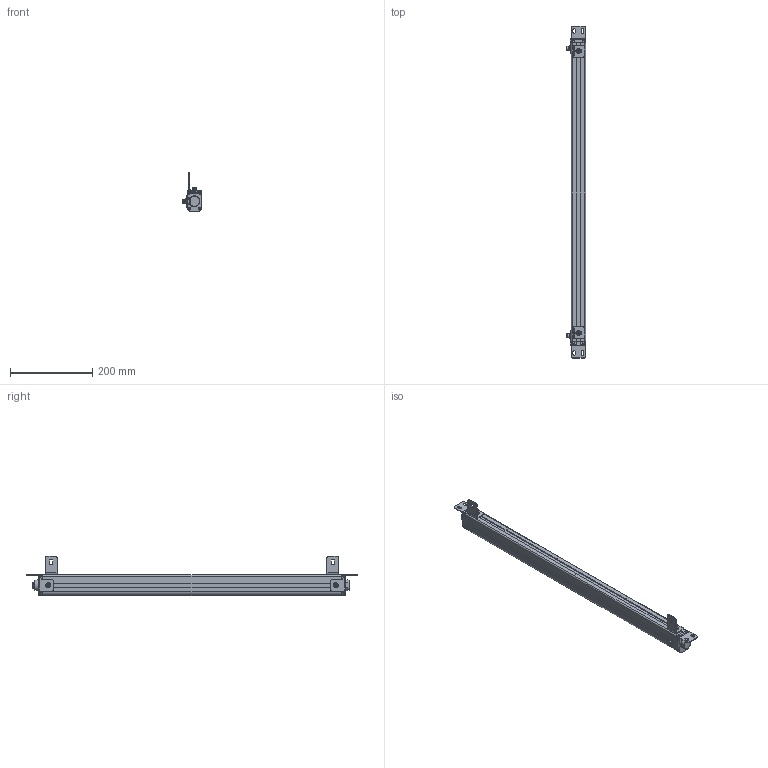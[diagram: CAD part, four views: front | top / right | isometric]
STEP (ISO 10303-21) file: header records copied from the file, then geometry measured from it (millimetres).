
FILE_DESCRIPTION((''),'2;1');
FILE_NAME('ESN--000_ASM','2021-08-11T16:09:10',('18720616900'),(''),'CREO PARAMETRIC BY PTC INC, 2019010','CREO PARAMETRIC BY PTC INC, 2019010','');
FILE_SCHEMA(('CONFIG_CONTROL_DESIGN'));
Length unit declared in the file: millimetre
Products named in the file (22): 00; 000; _0001; 4000; 4--0001; ESN_40001_ASM; L10001; M6-8--0001; M6-1--00; M6-1-00; M6-80001_ASM; L1--0001_ASM; _0002; 0005; ST-3-120001; H1--000; H1--0001_ASM; H1--0003_ASM; ESN--000_ASM
Assembly tree (34 placements, depth 4):
  ESN--000_ASM
    00
    000
    _0001
    000
    ESN_40001_ASM
      4000
      4--0001  x4
    L1--0001_ASM  x2
      L10001
      M6-80001_ASM
        M6-8--0001
        M6-1--00
        M6-1-00
        00
    _0002
    0005
    ST-3-120001  x8
    H1--0001_ASM
      H1--000
      M6-80001_ASM
        M6-8--0001
        M6-1--00
        M6-1-00
        00
    H1--0003_ASM
      H1--000
      M6-80001_ASM
        M6-8--0001
        M6-1--00
        M6-1-00
        00
Bounding box: 46.5 x 807 x 94.95 mm (x, y, z)
Volume: 1140324 mm3; surface area: 250129.6 mm2
Topology: 39 solids, 39 shells, 1727 faces, 4555 edges, 2925 vertices
Faces by surface type: plane 541, cylinder 404, bspline 362, cone 291, torus 105, sphere 24
Entity records: 45714 total; most frequent: CARTESIAN_POINT 24222, ORIENTED_EDGE 4766, DIRECTION 3842, EDGE_CURVE 2383, VERTEX_POINT 1546, AXIS2_PLACEMENT_3D 1400, VECTOR 1042, LINE 1042
